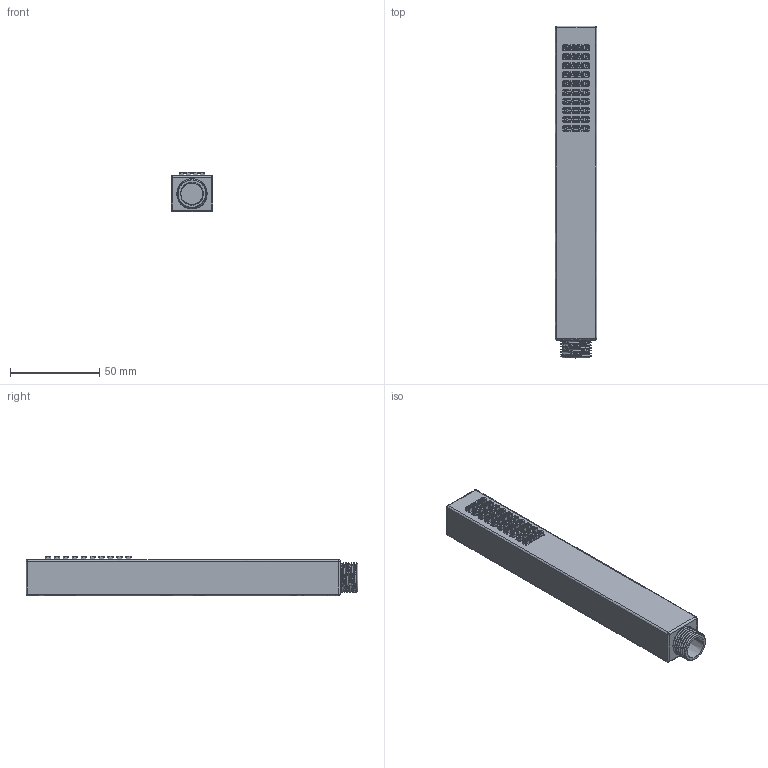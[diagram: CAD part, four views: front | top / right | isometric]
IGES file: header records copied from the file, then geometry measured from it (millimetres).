
Global section: file name: 5901867772688_igs; native system: Autodesk Inventor 2020; preprocessor: unknown; date: 20200727.140853; units: millimetre
Bounding box: 23.33 x 185.56 x 22.3 mm (x, y, z)
Surface area: 25723.6 mm2 (no closed solid volume)
Topology: 0 solids, 0 shells, 1135 faces, 6206 edges, 6155 vertices
Faces by surface type: bspline 883, revolution 252
